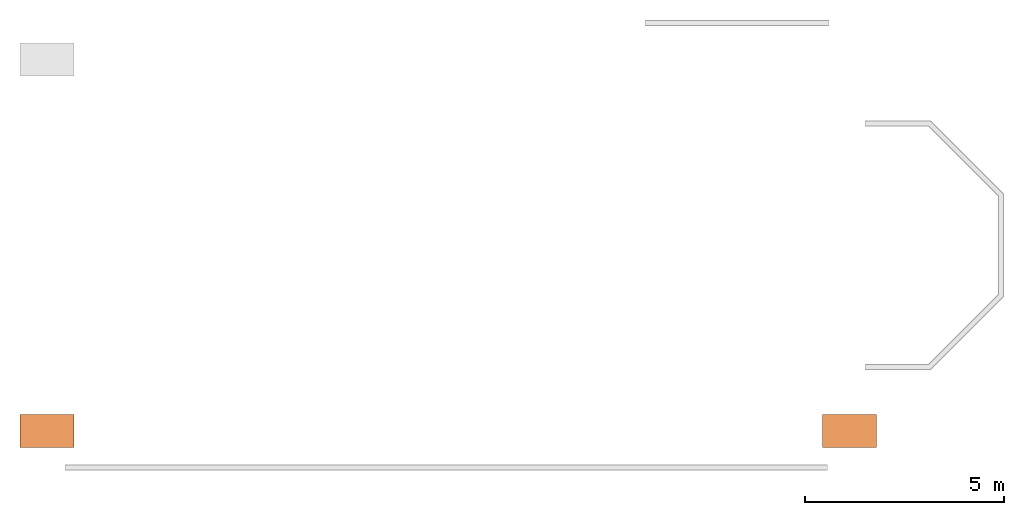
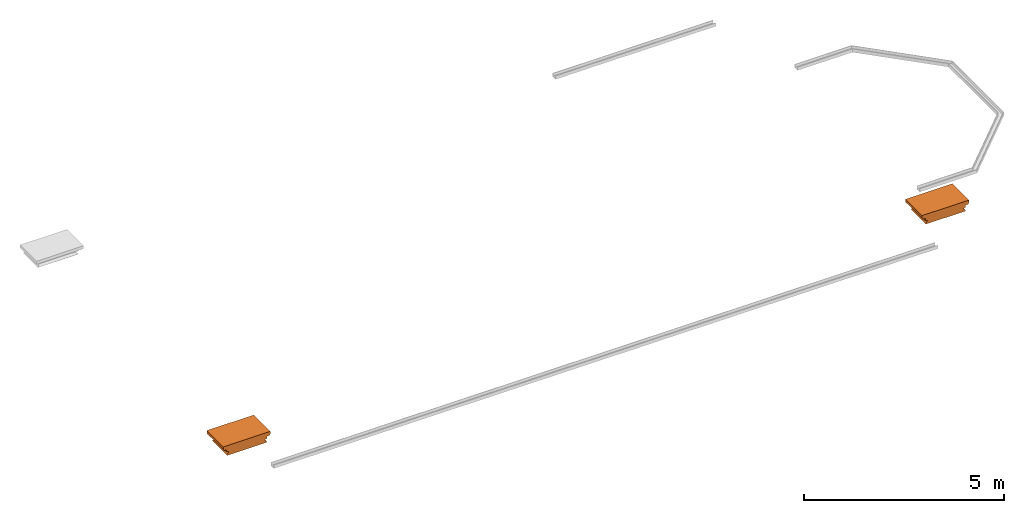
# One storey, part 3 of 4: 2 proxies.
"""IFC2X3 building model written with IfcOpenShell, lengths in metres."""

from ifc_helpers import new_model, entity, si_unit, converted_unit, derived_unit, direction, frame, origin, place, context, subcontext, project, spatial, faceted_brep, source, transform, mapped, material, type_object, type_shapes, element, save


model = new_model("IFC2X3")

# Units and contexts
model_context = context("Model", 3, precision=1e-05, world=origin(), true_north=direction((6.12303176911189e-17, 1.0)))
plan_context = context("Plan", 3, precision=1e-05, world=origin(), true_north=direction((6.12303176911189e-17, 1.0)))
body_context = subcontext(model_context, "Body", "Model", "MODEL_VIEW")
ifc_project = project(units=[si_unit("LENGTHUNIT", "METRE"), si_unit("AREAUNIT", "SQUARE_METRE"), si_unit("VOLUMEUNIT", "CUBIC_METRE"), converted_unit("PLANEANGLEUNIT", "DEGREE", entity("IfcRatioMeasure", 0.0174532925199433), si_unit("PLANEANGLEUNIT", "RADIAN"), dimensions=[0, 0, 0, 0, 0, 0, 0]), si_unit("MASSUNIT", "GRAM", prefix="KILO"), derived_unit("MASSDENSITYUNIT", [(si_unit("MASSUNIT", "GRAM", prefix="KILO"), 1), (si_unit("LENGTHUNIT", "METRE"), -3)]), derived_unit("MOMENTOFINERTIAUNIT", [(si_unit("LENGTHUNIT", "METRE"), 4)]), si_unit("TIMEUNIT", "SECOND"), si_unit("FREQUENCYUNIT", "HERTZ"), si_unit("THERMODYNAMICTEMPERATUREUNIT", "DEGREE_CELSIUS"), derived_unit("THERMALTRANSMITTANCEUNIT", [(si_unit("MASSUNIT", "GRAM", prefix="KILO"), 1), (si_unit("THERMODYNAMICTEMPERATUREUNIT", "KELVIN"), -1), (si_unit("TIMEUNIT", "SECOND"), -3)]), derived_unit("VOLUMETRICFLOWRATEUNIT", [(si_unit("LENGTHUNIT", "METRE"), 3), (si_unit("TIMEUNIT", "SECOND"), -1)]), derived_unit("MASSFLOWRATEUNIT", [(si_unit("MASSUNIT", "GRAM", prefix="KILO"), 1), (si_unit("TIMEUNIT", "SECOND"), -1)]), derived_unit("ROTATIONALFREQUENCYUNIT", [(si_unit("TIMEUNIT", "SECOND"), -1)]), si_unit("ELECTRICCURRENTUNIT", "AMPERE"), si_unit("ELECTRICVOLTAGEUNIT", "VOLT"), si_unit("POWERUNIT", "WATT"), si_unit("FORCEUNIT", "NEWTON", prefix="KILO"), si_unit("ILLUMINANCEUNIT", "LUX"), si_unit("LUMINOUSFLUXUNIT", "LUMEN"), si_unit("LUMINOUSINTENSITYUNIT", "CANDELA"), derived_unit("USERDEFINED", [(si_unit("MASSUNIT", "GRAM", prefix="KILO"), -1), (si_unit("LENGTHUNIT", "METRE"), -2), (si_unit("TIMEUNIT", "SECOND"), 3), (si_unit("LUMINOUSFLUXUNIT", "LUMEN"), 1)]), derived_unit("SOUNDPOWERUNIT", [(si_unit("MASSUNIT", "GRAM", prefix="KILO"), 1), (si_unit("LENGTHUNIT", "METRE"), 2), (si_unit("TIMEUNIT", "SECOND"), -3)]), derived_unit("SOUNDPRESSUREUNIT", [(si_unit("MASSUNIT", "GRAM", prefix="KILO"), 1), (si_unit("LENGTHUNIT", "METRE"), -1), (si_unit("TIMEUNIT", "SECOND"), -2)]), derived_unit("LINEARVELOCITYUNIT", [(si_unit("LENGTHUNIT", "METRE"), 1), (si_unit("TIMEUNIT", "SECOND"), -1)]), si_unit("PRESSUREUNIT", "PASCAL"), derived_unit("USERDEFINED", [(si_unit("LENGTHUNIT", "METRE"), -2), (si_unit("MASSUNIT", "GRAM", prefix="KILO"), 1), (si_unit("TIMEUNIT", "SECOND"), -2)]), derived_unit("LINEARFORCEUNIT", [(si_unit("MASSUNIT", "GRAM", prefix="KILO"), 1), (si_unit("LENGTHUNIT", "METRE"), 1), (si_unit("TIMEUNIT", "SECOND"), -2), (si_unit("LENGTHUNIT", "METRE"), -1)]), derived_unit("PLANARFORCEUNIT", [(si_unit("MASSUNIT", "GRAM", prefix="KILO"), 1), (si_unit("LENGTHUNIT", "METRE"), 1), (si_unit("TIMEUNIT", "SECOND"), -2), (si_unit("LENGTHUNIT", "METRE"), -2)])], contexts=[model_context, plan_context])

# Site, building, storey
site_placement = place(None, frame((-11.0823275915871, 23.8300534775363, 0.0)))
site = spatial("IfcSite", under=ifc_project, at=site_placement, Name="Default", CompositionType="ELEMENT")
building_placement = place(site_placement, origin())
building = spatial("IfcBuilding", under=site, at=building_placement, Name="Englische Kirche", CompositionType="ELEMENT")
storey_placement = place(building_placement, frame((0.0, 0.0, 6.74999999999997)))
storey = spatial("IfcBuildingStorey", under=building, at=storey_placement, Name="Ebene 2 Gallery Stage 1", CompositionType="ELEMENT", Elevation=6.74999999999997)

# Proxies
ifc_material = material(Name="Mauerwerk - Sandstein Rot")
building_element_proxy_type = type_object("IfcBuildingElementProxyType", Name="VergeCopingEnd:VergeCopingEnd", PredefinedType="NOTDEFINED", material=ifc_material)
shared_shape = source(origin(), body_context, "Body", "Brep", [
    faceted_brep([(0.68, -0.66, 0.300000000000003), (0.68, 0.167578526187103, 0.300000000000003), (-0.679999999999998, 0.167578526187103, 0.300000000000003), (-0.68, -0.66, 0.300000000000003), (-0.5637867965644, -0.66, 0.0), (-0.563786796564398, 0.0513653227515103, 0.0), (0.563786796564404, 0.0513653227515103, 0.0), (0.563786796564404, -0.660000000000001, 0.0), (0.68, -0.66, 0.214999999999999), (-0.68, -0.66, 0.215000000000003), (-0.648180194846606, -0.66, 0.183180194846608), (-0.585, -0.66, 0.183180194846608), (-0.584999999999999, -0.66, 0.120208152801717), (-0.512421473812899, -0.66, 0.0937917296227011), (-0.584999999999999, -0.66, 0.0212132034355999), (0.585, -0.66, 0.0212132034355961), (0.512421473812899, -0.66, 0.0937917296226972), (0.585, -0.66, 0.120208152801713), (0.585, -0.66, 0.183180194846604), (0.648180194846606, -0.66, 0.183180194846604), (0.648180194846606, 0.135758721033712, 0.183180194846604), (0.68, 0.167578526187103, 0.214999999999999), (0.585, 0.0725785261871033, 0.183180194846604), (-0.584999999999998, 0.0725785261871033, 0.183180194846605), (-0.648180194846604, 0.135758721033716, 0.183180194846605), (0.585, 0.0725785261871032, 0.120208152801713), (0.512421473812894, 0.0, 0.0937917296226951), (0.585000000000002, 0.0725785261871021, 0.0212132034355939), (-0.679999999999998, 0.167578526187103, 0.215000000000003), (-0.584999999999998, 0.0725785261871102, 0.0212132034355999), (-0.512421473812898, 0.0, 0.0937917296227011), (-0.584999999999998, 0.0725785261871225, 0.120208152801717)], [[[0, 1, 2, 3]], [[4, 5, 6, 7]], [[8, 0, 3, 9, 10, 11, 12, 13, 14, 4, 7, 15, 16, 17, 18, 19]], [[20, 21, 8, 19]], [[18, 22, 23, 11, 10, 24, 20, 19]], [[17, 25, 22, 18]], [[16, 26, 25, 17]], [[15, 27, 26, 16]], [[7, 6, 27, 15]], [[8, 21, 1, 0]], [[3, 2, 28, 9]], [[14, 29, 5, 4]], [[13, 30, 29, 14]], [[12, 31, 30, 13]], [[11, 23, 31, 12]], [[9, 28, 24, 10]], [[28, 2, 1, 21]], [[27, 6, 5, 29]], [[29, 30, 26, 27]], [[30, 31, 25, 26]], [[31, 23, 22, 25]], [[21, 20, 24, 28]]]),
])
type_shapes(building_element_proxy_type, [shared_shape])
for number, where in (
    (1, (20.224524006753, 0.419351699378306, 3.23739372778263)),
    (2, (0.015945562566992, 0.420497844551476, 3.23900000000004)),
):
    element("IfcBuildingElementProxy", number, at=place(storey_placement, frame(where)), inside=storey, type_object=building_element_proxy_type, material=ifc_material, Name="VergeCopingEnd:VergeCopingEnd", ObjectType="VergeCopingEnd:VergeCopingEnd", context=body_context, shape_type="MappedRepresentation", body=[
        mapped(shared_shape, transform((0.0, 0.0, 0.0), scale=1.0)),
    ])

save(model, "model.ifc")
